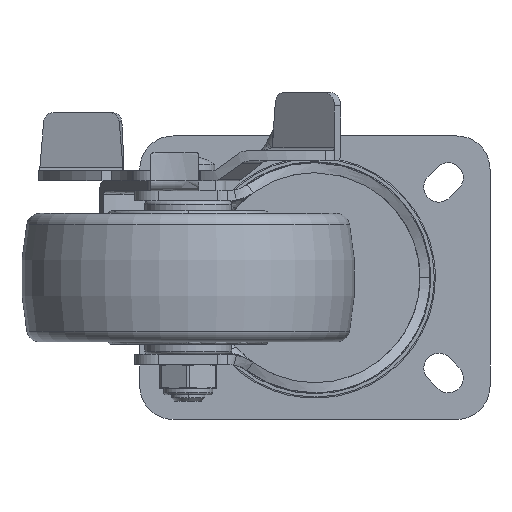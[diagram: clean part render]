
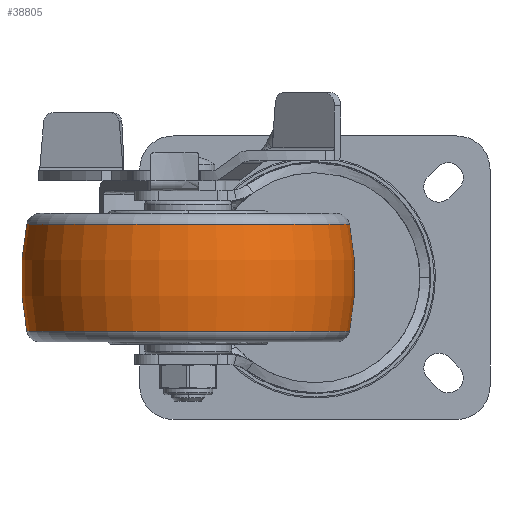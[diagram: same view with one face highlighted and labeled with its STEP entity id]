
A CAD part, front view. The second image highlights one B-rep face of the part: STEP entity #38805.
In plain terms, the highlighted toroidal (fillet/blend) face has major radius 30 mm and minor radius 80 mm.
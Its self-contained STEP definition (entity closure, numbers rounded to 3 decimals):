
#830 = AXIS2_PLACEMENT_3D ( 'NONE', #37685, #52042, #27583 ) ;
#980 = CARTESIAN_POINT ( 'NONE',  ( -86.715, 52.334, 0. ) ) ;
#1542 = CARTESIAN_POINT ( 'NONE',  ( -54.61, 52.334, -48.373 ) ) ;
#2179 = AXIS2_PLACEMENT_3D ( 'NONE', #8523, #4001, #38405 ) ;
#4001 = DIRECTION ( 'NONE',  ( 0., 1., 0. ) ) ;
#5085 = TOROIDAL_SURFACE ( 'NONE', #10364, -30., 80. ) ;
#7419 = FACE_OUTER_BOUND ( 'NONE', #39272, .T. ) ;
#8523 = CARTESIAN_POINT ( 'NONE',  ( -70.663, 52.334, 30. ) ) ;
#9056 = AXIS2_PLACEMENT_3D ( 'NONE', #980, #19901, #54682 ) ;
#9524 = CARTESIAN_POINT ( 'NONE',  ( -86.715, 52.334, -48.373 ) ) ;
#10364 = AXIS2_PLACEMENT_3D ( 'NONE', #56589, #53161, #22897 ) ;
#18982 = CIRCLE ( 'NONE', #9056, 48.373 ) ;
#19901 = DIRECTION ( 'NONE',  ( -1., 0., 0. ) ) ;
#20323 = EDGE_CURVE ( 'NONE', #35225, #27122, #40116, .T. ) ;
#22897 = DIRECTION ( 'NONE',  ( 0., 0., 1. ) ) ;
#24695 = ORIENTED_EDGE ( 'NONE', *, *, #31182, .F. ) ;
#24968 = AXIS2_PLACEMENT_3D ( 'NONE', #62437, #33275, #51913 ) ;
#26552 = CIRCLE ( 'NONE', #2179, 80. ) ;
#27122 = VERTEX_POINT ( 'NONE', #27884 ) ;
#27583 = DIRECTION ( 'NONE',  ( 0., 0., -1. ) ) ;
#27884 = CARTESIAN_POINT ( 'NONE',  ( -54.61, 52.334, 48.373 ) ) ;
#31182 = EDGE_CURVE ( 'NONE', #45111, #50560, #18982, .T. ) ;
#33275 = DIRECTION ( 'NONE',  ( -1., 0., 0. ) ) ;
#34528 = ORIENTED_EDGE ( 'NONE', *, *, #56176, .T. ) ;
#35225 = VERTEX_POINT ( 'NONE', #1542 ) ;
#35494 = CIRCLE ( 'NONE', #830, 80. ) ;
#37685 = CARTESIAN_POINT ( 'NONE',  ( -70.663, 52.334, -30. ) ) ;
#38405 = DIRECTION ( 'NONE',  ( 0., 0., 1. ) ) ;
#38805 = ADVANCED_FACE ( 'NONE', ( #7419 ), #5085, .T. ) ;
#39272 = EDGE_LOOP ( 'NONE', ( #52753, #55485, #34528, #24695 ) ) ;
#40116 = CIRCLE ( 'NONE', #24968, 48.373 ) ;
#41904 = EDGE_CURVE ( 'NONE', #35225, #45111, #26552, .T. ) ;
#44957 = CARTESIAN_POINT ( 'NONE',  ( -86.715, 52.334, 48.373 ) ) ;
#45111 = VERTEX_POINT ( 'NONE', #9524 ) ;
#50560 = VERTEX_POINT ( 'NONE', #44957 ) ;
#51913 = DIRECTION ( 'NONE',  ( 0., 0., 1. ) ) ;
#52042 = DIRECTION ( 'NONE',  ( 0., -1., 0. ) ) ;
#52753 = ORIENTED_EDGE ( 'NONE', *, *, #41904, .F. ) ;
#53161 = DIRECTION ( 'NONE',  ( -1., 0., 0. ) ) ;
#54682 = DIRECTION ( 'NONE',  ( 0., 0., 1. ) ) ;
#55485 = ORIENTED_EDGE ( 'NONE', *, *, #20323, .T. ) ;
#56176 = EDGE_CURVE ( 'NONE', #27122, #50560, #35494, .T. ) ;
#56589 = CARTESIAN_POINT ( 'NONE',  ( -70.663, 52.334, 0. ) ) ;
#62437 = CARTESIAN_POINT ( 'NONE',  ( -54.61, 52.334, 0. ) ) ;
